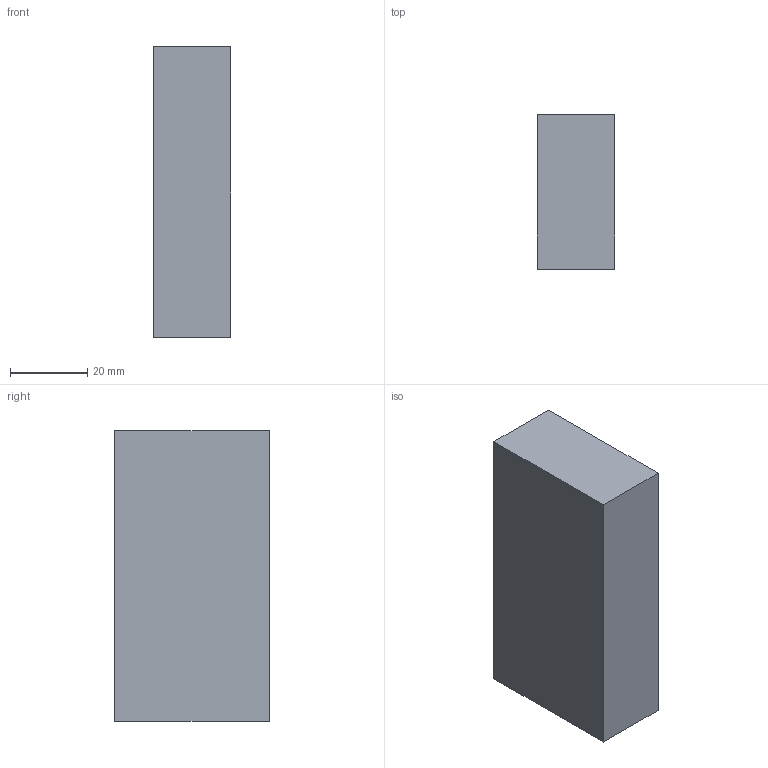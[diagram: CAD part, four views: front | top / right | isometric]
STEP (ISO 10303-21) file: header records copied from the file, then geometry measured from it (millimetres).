
FILE_DESCRIPTION(('Open CASCADE Model'),'2;1');
FILE_NAME('Open CASCADE Shape Model','2026-09-19T23:46:40',('Author'),( 'Open CASCADE'),'Open CASCADE STEP processor 7.9','Open CASCADE 7.9' ,'Unknown');
FILE_SCHEMA(('AUTOMOTIVE_DESIGN { 1 0 10303 214 1 1 1 1 }'));
Length unit declared in the file: millimetre
Products named in the file (1): Open CASCADE STEP translator 7.9 44
Bounding box: 20 x 40 x 75 mm (x, y, z)
Volume: 60000 mm3; surface area: 10600 mm2
Topology: 1 solids, 1 shells, 6 faces, 12 edges, 8 vertices
Faces by surface type: plane 6
Entity records: 322 total; most frequent: CARTESIAN_POINT 51, DIRECTION 50, LINE 36, VECTOR 36, ORIENTED_EDGE 24, PCURVE 24, DEFINITIONAL_REPRESENTATION 24, EDGE_CURVE 12
